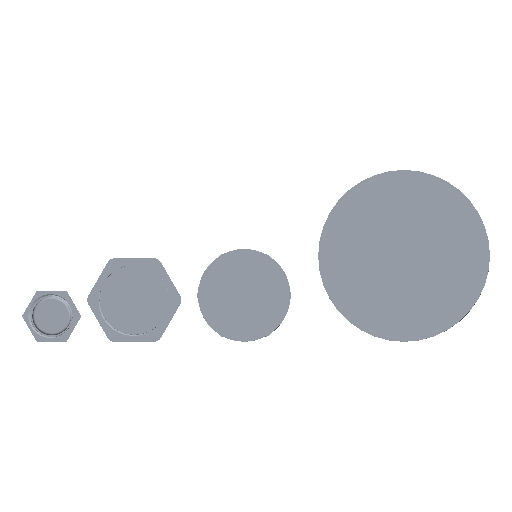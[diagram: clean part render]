
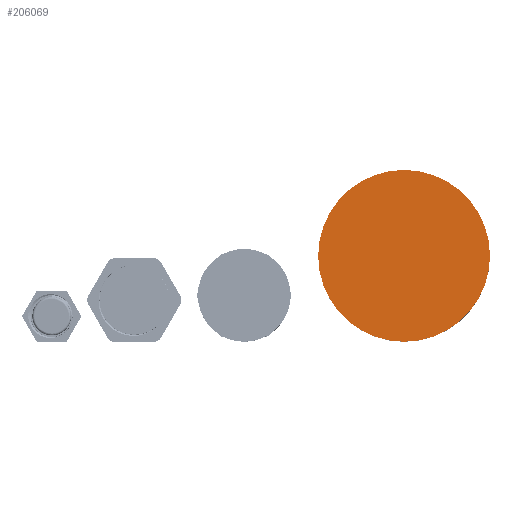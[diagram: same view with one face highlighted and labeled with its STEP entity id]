
A CAD part, top view. The second image highlights one B-rep face of the part: STEP entity #206069.
In plain terms, the highlighted planar face has unit normal (0, 0, 1).
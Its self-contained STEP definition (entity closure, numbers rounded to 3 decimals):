
#183395=CARTESIAN_POINT('',(0.,0.,80.));
#183396=DIRECTION('',(0.,0.,-1.));
#183397=DIRECTION('',(-1.,0.,0.));
#183398=AXIS2_PLACEMENT_3D('',#183395,#183396,#183397);
#183400=CARTESIAN_POINT('',(0.,0.,80.));
#183401=DIRECTION('',(0.,0.,1.));
#183402=DIRECTION('',(-1.,0.,0.));
#183403=AXIS2_PLACEMENT_3D('',#183400,#183401,#183402);
#189968=CARTESIAN_POINT('',(-37.,0.,80.));
#189970=VERTEX_POINT('',#189968);
#189978=CARTESIAN_POINT('',(37.,0.,80.));
#189980=VERTEX_POINT('',#189978);
#206060=CARTESIAN_POINT('',(0.,0.,80.));
#206061=DIRECTION('',(0.,0.,1.));
#206062=DIRECTION('',(-1.,0.,0.));
#206063=AXIS2_PLACEMENT_3D('',#206060,#206061,#206062);
#206064=PLANE('',#206063);
#206065=ORIENTED_EDGE('',*,*,#206055,.T.);
#206066=ORIENTED_EDGE('',*,*,#206039,.F.);
#206067=EDGE_LOOP('',(#206065,#206066));
#206068=FACE_OUTER_BOUND('',#206067,.F.);
#206069=ADVANCED_FACE('',(#206068),#206064,.T.);
#183399=CIRCLE('',#183398,37.);
#183404=CIRCLE('',#183403,37.);
#206039=EDGE_CURVE('',#189970,#189980,#183404,.T.);
#206055=EDGE_CURVE('',#189970,#189980,#183399,.T.);
